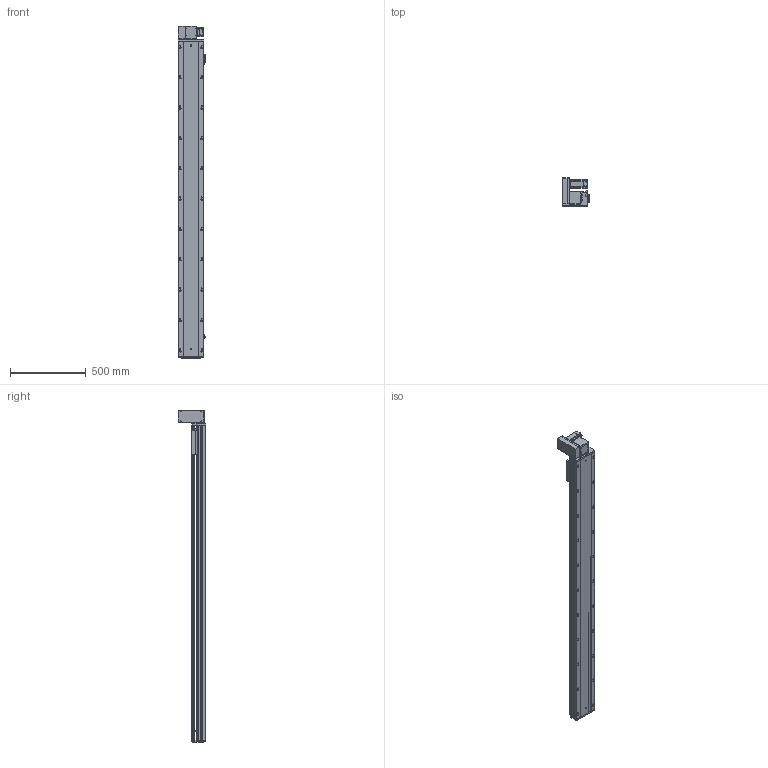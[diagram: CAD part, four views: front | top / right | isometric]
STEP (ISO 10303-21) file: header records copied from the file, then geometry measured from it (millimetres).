
FILE_DESCRIPTION (( 'STEP AP203' ), '1' );
FILE_NAME ('RY170-T-300-UL-P400W.SLDASM_1800.step', '2021-03-02T02:14:03', ( '盈信电脑' ), ( '东莞市道滘镇水果街19号' ), 'SwSTEP 2.0', 'SolidWorks 2012', '' );
FILE_SCHEMA (( 'CONFIG_CONTROL_DESIGN' ));
Products named in the file (18): RY170-T-300-UL-P400W.SLDASM_1800; RY170同步轮电机安装板(400W); RY170-T蹟翐M4; 15; RY170-T肮祭謫裔啣; RY170肮祭謫萇儂欶; 滅袉蝶18-10; RY120-T主同步轮轴承压盖; RY170-T肮祭湍揤踡輸1; RY170-T肮祭湍揤踡輸2; RY170肮祭謫ヶ裔啣; RY170翋肮祭謫釱; 覜茼ん672; RY170外置感应片(200共用）; RY170綴裔啣; RY170-T-300肮祭謫倰第裔啣-DL_1800; RY170-T-300肮祭謫倰第菁釱-DL_1800; RY170肮祭湍臏賑輸
Assembly tree (20 placements, depth 2):
  RY170-T-300-UL-P400W.SLDASM_1800
    RY170-T-300肮祭謫倰第菁釱-DL_1800
    RY170肮祭湍臏賑輸
    RY170-T-300肮祭謫倰第裔啣-DL_1800
    RY170綴裔啣
    覜茼ん672  x3
    RY170外置感应片(200共用）
    RY170肮祭謫ヶ裔啣
    RY170翋肮祭謫釱
    RY170-T肮祭湍揤踡輸1
    RY170-T肮祭湍揤踡輸2
    RY170-T肮祭謫裔啣
    滅袉蝶18-10  x2
    RY120-T主同步轮轴承压盖
    RY170肮祭謫萇儂欶
    RY170同步轮电机安装板(400W)
    RY170-T蹟翐M4
    15
Bounding box: 183.7 x 184 x 2188 mm (x, y, z)
Volume: 10214065.9 mm3; surface area: 3503441.5 mm2
Topology: 20 solids, 20 shells, 2781 faces, 7818 edges, 4977 vertices
Faces by surface type: cylinder 1306, plane 1153, cone 292, bspline 30
Entity records: 89680 total; most frequent: CARTESIAN_POINT 20662, ORIENTED_EDGE 14168, DIRECTION 13822, EDGE_CURVE 7084, AXIS2_PLACEMENT_3D 4899, VERTEX_POINT 4645, LINE 4024, VECTOR 4024
